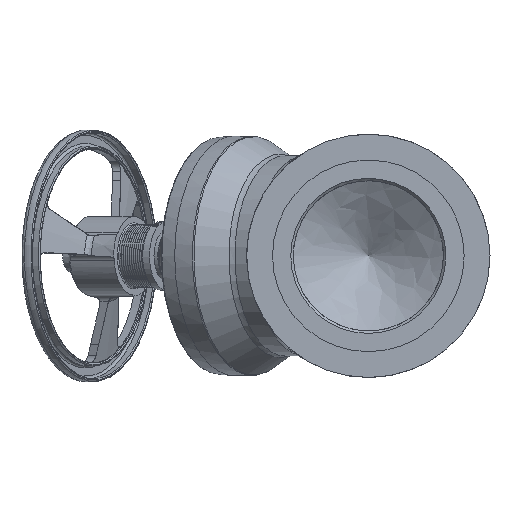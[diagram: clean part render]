
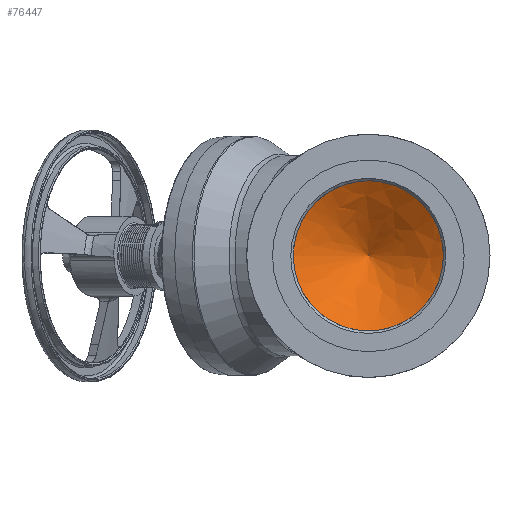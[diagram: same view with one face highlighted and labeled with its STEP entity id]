
A CAD part, left-side view. The second image highlights one B-rep face of the part: STEP entity #76447.
In plain terms, the highlighted free-form (B-spline) face has degree [1, 2] with [2, 9] control points.
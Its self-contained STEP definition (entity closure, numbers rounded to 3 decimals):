
#76410=CARTESIAN_POINT('',(-666.861,-27.876,10.));
#76411=CARTESIAN_POINT('',(-591.754,-152.876,10.));
#76412=CARTESIAN_POINT('',(-666.861,-27.876,-115.));
#76413=CARTESIAN_POINT('',(-591.754,-152.876,10.));
#76414=CARTESIAN_POINT('',(-666.861,-152.876,-115.));
#76415=CARTESIAN_POINT('',(-591.754,-152.876,10.));
#76416=CARTESIAN_POINT('',(-666.861,-277.876,-115.));
#76417=CARTESIAN_POINT('',(-591.754,-152.876,10.));
#76418=CARTESIAN_POINT('',(-666.861,-277.876,10.));
#76419=CARTESIAN_POINT('',(-591.754,-152.876,10.));
#76420=CARTESIAN_POINT('',(-666.861,-277.876,135.));
#76421=CARTESIAN_POINT('',(-591.754,-152.876,10.));
#76422=CARTESIAN_POINT('',(-666.861,-152.876,135.));
#76423=CARTESIAN_POINT('',(-591.754,-152.876,10.));
#76424=CARTESIAN_POINT('',(-666.861,-27.876,135.));
#76425=CARTESIAN_POINT('',(-591.754,-152.876,10.));
#76426=CARTESIAN_POINT('',(-666.861,-27.876,10.));
#76427=CARTESIAN_POINT('',(-591.754,-152.876,10.));
#76435=(BOUNDED_SURFACE()B_SPLINE_SURFACE(1,2,((#76410,#76412,#76414,#76416,#76418,#76420,#76422,#76424,#76426),(#76411,#76413,#76415,#76417,#76419,#76421,#76423,#76425,#76427)),.UNSPECIFIED.,.F.,.T.,.U.)B_SPLINE_SURFACE_WITH_KNOTS((2,2),(3,2,2,2,3),(-1.167,1.167),(0.0,98.175,196.35,294.524,392.699),.UNSPECIFIED.)GEOMETRIC_REPRESENTATION_ITEM()RATIONAL_B_SPLINE_SURFACE(((1.0,0.707,1.0,0.707,1.0,0.707,1.0,0.707,1.0),(1.0,0.707,1.0,0.707,1.0,0.707,1.0,0.707,1.0)))REPRESENTATION_ITEM('')SURFACE());
#76436=CARTESIAN_POINT('',(-666.861,-277.876,10.));
#76437=VERTEX_POINT('',#76436);
#76438=CARTESIAN_POINT('',(-666.861,-152.876,10.));
#76439=DIRECTION('',(-1.0,0.0,0.0));
#76440=DIRECTION('',(0.0,-1.0,0.0));
#76441=AXIS2_PLACEMENT_3D('',#76438,#76439,#76440);
#76442=CIRCLE('',#76441,125.0);
#76443=EDGE_CURVE('',#76437,#76437,#76442,.T.);
#76444=ORIENTED_EDGE('',*,*,#76443,.T.);
#76445=EDGE_LOOP('',(#76444));
#76446=FACE_OUTER_BOUND('',#76445,.T.);
#76447=ADVANCED_FACE('',(#76446),#76435,.F.);
